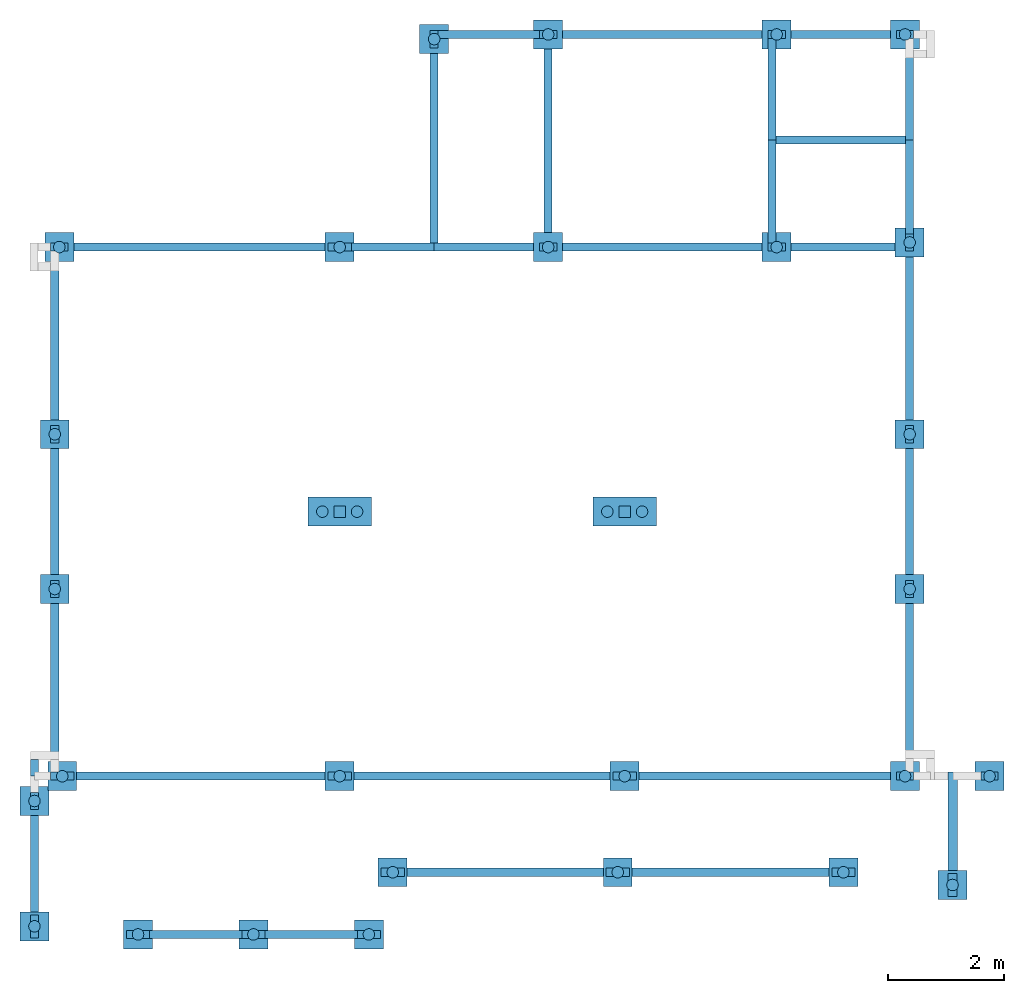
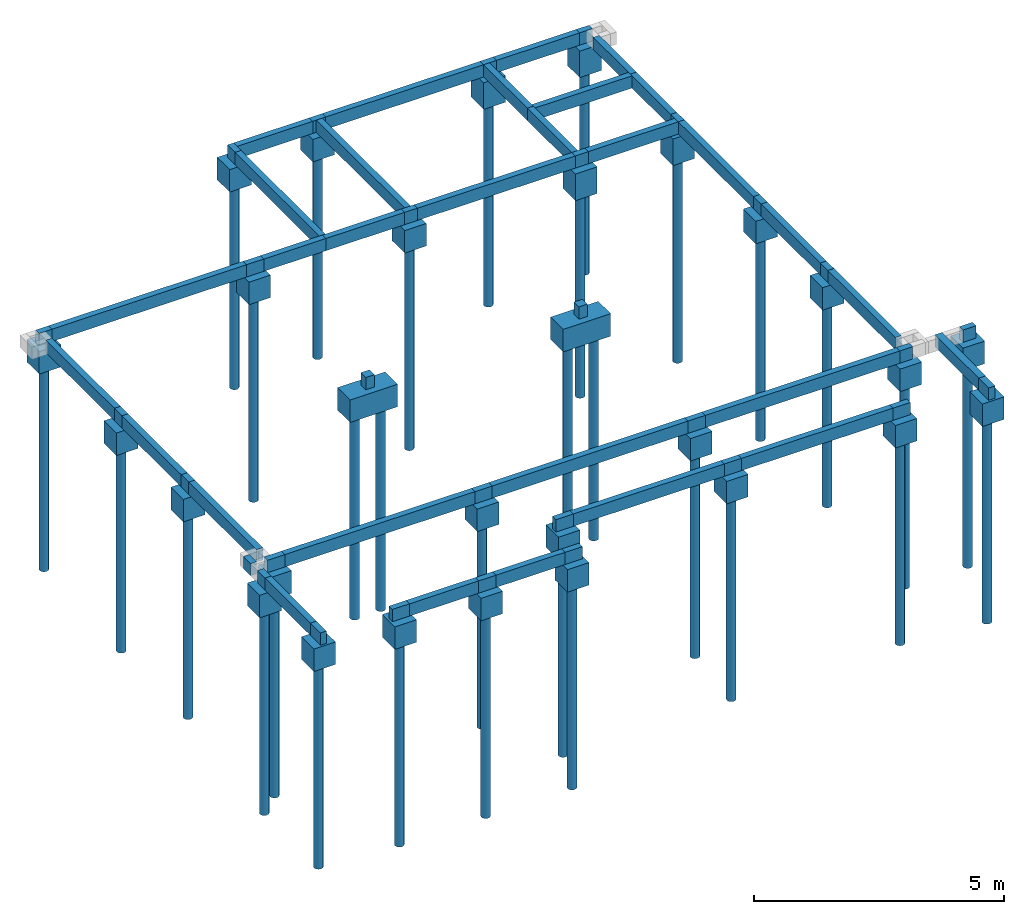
# One storey, part 1 of 2: 31 beams, 31 piles, 29 columns, 29 footings.
"""IFC4 building model written with IfcOpenShell, lengths in centimetres."""

from ifc_helpers import new_model, si_unit, derived_unit, frame, origin_with_axes, origin_2d_with_axis, place, context, project, spatial, rectangle, circle, extrude, faceted_brep, material, element, save


model = new_model("IFC4")

# Units and contexts
model_context = context("Model", 3, precision=1e-05, world=origin_with_axes(), identifier="Body")
ifc_project = project(units=[si_unit("LENGTHUNIT", "METRE", prefix="CENTI"), si_unit("VOLUMEUNIT", "CUBIC_METRE"), si_unit("AREAUNIT", "SQUARE_METRE"), si_unit("POWERUNIT", "WATT"), si_unit("LUMINOUSFLUXUNIT", "LUMEN"), si_unit("ELECTRICCURRENTUNIT", "AMPERE"), si_unit("PRESSUREUNIT", "PASCAL", prefix="KILO"), si_unit("MASSUNIT", "GRAM", prefix="KILO"), si_unit("PLANEANGLEUNIT", "RADIAN"), derived_unit("VOLUMETRICFLOWRATEUNIT", [(si_unit("LENGTHUNIT", "METRE"), 3), (si_unit("TIMEUNIT", "SECOND"), -1)])], contexts=[model_context])

# Site, building, storey
site_placement = place(None, origin_with_axes())
site = spatial("IfcSite", under=ifc_project, at=site_placement)
building_placement = place(site_placement, frame((0.0, 0.0, 24.0)))
building = spatial("IfcBuilding", under=site, at=building_placement)
storey_placement = place(building_placement, origin_with_axes())
storey = spatial("IfcBuildingStorey", under=building, at=storey_placement, Name="BALDRAME-FUNDAÇÃO", CompositionType="ELEMENT", Elevation=24.0)

# Footings
ifc_material = material(Name="Concreto")
for number, where, z_axis, x_axis, name in (
    (1, (682.38, 1555.0, -30.0), (0.0, 0.0, 1.0), (1.0, 0.0, 0.0), "P1"),
    (2, (26.5, 872.02, -30.0), (0.0, 0.0, 1.0), (1.0, 0.0, 0.0), "P10"),
    (3, (1504.19, 872.02, -30.0), (0.0, 0.0, 1.0), (1.0, 0.0, 0.0), "P11"),
):
    element("IfcFooting", number, at=place(storey_placement, frame(where, z_axis=z_axis, x_axis=x_axis)), inside=storey, material=ifc_material, Name=name, context=model_context, shape_type="SolidModel", body=[
        faceted_brep([(25.0, 25.0, -55.0), (25.0, -25.0, -55.0), (-25.0, -25.0, -55.0), (-25.0, 25.0, -55.0), (-25.0, 25.0, 0.0), (-25.0, -25.0, 0.0), (25.0, -25.0, 0.0), (25.0, 25.0, 0.0)], [[[0, 1, 2, 3]], [[4, 5, 6, 7]], [[4, 3, 5]], [[3, 2, 5]], [[5, 2, 6]], [[2, 1, 6]], [[6, 1, 7]], [[1, 0, 7]], [[7, 0, 4]], [[0, 3, 4]]]),
    ])
for number, where, z_axis, x_axis, name in (
    (4, (519.06, 738.26, -30.0), (0.0, 0.0, 1.0), (1.0, 0.0, 0.0), "P12"),
    (5, (1011.63, 738.26, -30.0), (0.0, 0.0, 1.0), (1.0, 0.0, 0.0), "P13"),
):
    element("IfcFooting", number, at=place(storey_placement, frame(where, z_axis=z_axis, x_axis=x_axis)), inside=storey, material=ifc_material, Name=name, context=model_context, shape_type="SolidModel", body=[
        faceted_brep([(55.0, 25.0, -55.0), (55.0, -25.0, -55.0), (-55.0, -25.0, -55.0), (-55.0, 25.0, -55.0), (-55.0, 25.0, 0.0), (-55.0, -25.0, 0.0), (55.0, -25.0, 0.0), (55.0, 25.0, 0.0)], [[[0, 1, 2, 3]], [[4, 5, 6, 7]], [[4, 3, 5]], [[3, 2, 5]], [[5, 2, 6]], [[2, 1, 6]], [[6, 1, 7]], [[1, 0, 7]], [[7, 0, 4]], [[0, 3, 4]]]),
    ])
for number, where, z_axis, x_axis, name in (
    (6, (26.5, 604.5, -30.0), (0.0, 0.0, 1.0), (1.0, 0.0, 0.0), "P14"),
    (7, (1504.19, 604.5, -30.0), (0.0, 0.0, 1.0), (1.0, 0.0, 0.0), "P15"),
):
    element("IfcFooting", number, at=place(storey_placement, frame(where, z_axis=z_axis, x_axis=x_axis)), inside=storey, material=ifc_material, Name=name, context=model_context, shape_type="SolidModel", body=[
        faceted_brep([(25.0, 25.0, -55.0), (25.0, -25.0, -55.0), (-25.0, -25.0, -55.0), (-25.0, 25.0, -55.0), (-25.0, 25.0, 0.0), (-25.0, -25.0, 0.0), (25.0, -25.0, 0.0), (25.0, 25.0, 0.0)], [[[0, 1, 2, 3]], [[4, 5, 6, 7]], [[4, 3, 5]], [[3, 2, 5]], [[5, 2, 6]], [[2, 1, 6]], [[6, 1, 7]], [[1, 0, 7]], [[7, 0, 4]], [[0, 3, 4]]]),
    ])
footing_1_placement = place(storey_placement, frame((-8.5, 238.13, -30.0), z_axis=(0.0, 0.0, 1.0), x_axis=(1.0, 0.0, 0.0)))
element("IfcFooting", 8, at=footing_1_placement, inside=storey, material=ifc_material, Name="P16", context=model_context, shape_type="SolidModel", body=[
    faceted_brep([(-25.0, -25.0, -55.0), (-25.0, 25.0, -55.0), (25.0, 25.0, -55.0), (25.0, -25.0, -55.0), (25.0, -25.0, 0.0), (25.0, 25.0, 0.0), (-25.0, 25.0, 0.0), (-25.0, -25.0, 0.0)], [[[0, 1, 2, 3]], [[4, 5, 6, 7]], [[4, 3, 5]], [[3, 2, 5]], [[5, 2, 6]], [[2, 1, 6]], [[6, 1, 7]], [[1, 0, 7]], [[7, 0, 4]], [[0, 3, 4]]]),
])
for number, where, z_axis, x_axis, name in (
    (9, (39.5, 281.0, -30.0), (0.0, 0.0, 1.0), (1.0, 0.0, 0.0), "P17"),
    (10, (519.06, 281.0, -30.0), (0.0, 0.0, 1.0), (1.0, 0.0, 0.0), "P18"),
    (11, (1011.63, 281.0, -30.0), (0.0, 0.0, 1.0), (1.0, 0.0, 0.0), "P19"),
    (12, (879.38, 1563.0, -30.0), (0.0, 0.0, 1.0), (1.0, 0.0, 0.0), "P2"),
    (13, (1496.18, 281.0, -30.0), (0.0, 0.0, 1.0), (1.0, 0.0, 0.0), "P20"),
    (14, (1642.23, 281.0, -30.0), (0.0, 0.0, 1.0), (1.0, 0.0, 0.0), "P21"),
    (15, (610.69, 115.0, -30.0), (0.0, 0.0, 1.0), (1.0, 0.0, 0.0), "P22"),
    (16, (999.69, 115.0, -30.0), (0.0, 0.0, 1.0), (1.0, 0.0, 0.0), "P23"),
    (17, (1389.69, 115.0, -30.0), (0.0, 0.0, 1.0), (1.0, 0.0, 0.0), "P24"),
):
    element("IfcFooting", number, at=place(storey_placement, frame(where, z_axis=z_axis, x_axis=x_axis)), inside=storey, material=ifc_material, Name=name, context=model_context, shape_type="SolidModel", body=[
        faceted_brep([(25.0, -25.0, -55.0), (-25.0, -25.0, -55.0), (-25.0, 25.0, -55.0), (25.0, 25.0, -55.0), (25.0, 25.0, 0.0), (-25.0, 25.0, 0.0), (-25.0, -25.0, 0.0), (25.0, -25.0, 0.0)], [[[0, 1, 2, 3]], [[4, 5, 6, 7]], [[4, 3, 5]], [[3, 2, 5]], [[5, 2, 6]], [[2, 1, 6]], [[6, 1, 7]], [[1, 0, 7]], [[7, 0, 4]], [[0, 3, 4]]]),
    ])
footing_2_placement = place(storey_placement, frame((1578.23, 93.0, -30.0), z_axis=(0.0, 0.0, 1.0), x_axis=(1.0, 0.0, 0.0)))
element("IfcFooting", 18, at=footing_2_placement, inside=storey, material=ifc_material, Name="P25", context=model_context, shape_type="SolidModel", body=[
    faceted_brep([(25.0, 25.0, -55.0), (25.0, -25.0, -55.0), (-25.0, -25.0, -55.0), (-25.0, 25.0, -55.0), (-25.0, 25.0, 0.0), (-25.0, -25.0, 0.0), (25.0, -25.0, 0.0), (25.0, 25.0, 0.0)], [[[0, 1, 2, 3]], [[4, 5, 6, 7]], [[4, 3, 5]], [[3, 2, 5]], [[5, 2, 6]], [[2, 1, 6]], [[6, 1, 7]], [[1, 0, 7]], [[7, 0, 4]], [[0, 3, 4]]]),
])
footing_3_placement = place(storey_placement, frame((-8.5, 21.5, -30.0), z_axis=(0.0, 0.0, 1.0), x_axis=(1.0, 0.0, 0.0)))
element("IfcFooting", 19, at=footing_3_placement, inside=storey, material=ifc_material, Name="P26", context=model_context, shape_type="SolidModel", body=[
    faceted_brep([(-25.0, -25.0, -55.0), (-25.0, 25.0, -55.0), (25.0, 25.0, -55.0), (25.0, -25.0, -55.0), (25.0, -25.0, 0.0), (25.0, 25.0, 0.0), (-25.0, 25.0, 0.0), (-25.0, -25.0, 0.0)], [[[0, 1, 2, 3]], [[4, 5, 6, 7]], [[4, 3, 5]], [[3, 2, 5]], [[5, 2, 6]], [[2, 1, 6]], [[6, 1, 7]], [[1, 0, 7]], [[7, 0, 4]], [[0, 3, 4]]]),
])
for number, where, z_axis, x_axis, name in (
    (20, (170.5, 7.5, -30.0), (0.0, 0.0, 1.0), (1.0, 0.0, 0.0), "P27"),
    (21, (370.0, 7.5, -30.0), (0.0, 0.0, 1.0), (1.0, 0.0, 0.0), "P28"),
    (22, (569.5, 7.5, -30.0), (0.0, 0.0, 1.0), (1.0, 0.0, 0.0), "P29"),
):
    element("IfcFooting", number, at=place(storey_placement, frame(where, z_axis=z_axis, x_axis=x_axis)), inside=storey, material=ifc_material, Name=name, context=model_context, shape_type="SolidModel", body=[
        faceted_brep([(25.0, -25.0, -55.0), (-25.0, -25.0, -55.0), (-25.0, 25.0, -55.0), (25.0, 25.0, -55.0), (25.0, 25.0, 0.0), (-25.0, 25.0, 0.0), (-25.0, -25.0, 0.0), (25.0, -25.0, 0.0)], [[[0, 1, 2, 3]], [[4, 5, 6, 7]], [[4, 3, 5]], [[3, 2, 5]], [[5, 2, 6]], [[2, 1, 6]], [[6, 1, 7]], [[1, 0, 7]], [[7, 0, 4]], [[0, 3, 4]]]),
    ])
for number, where, z_axis, x_axis, name in (
    (23, (1274.22, 1563.0, -30.0), (0.0, 0.0, 1.0), (1.0, 0.0, 0.0), "P3"),
    (24, (1496.18, 1563.0, -30.0), (0.0, 0.0, 1.0), (1.0, 0.0, 0.0), "P4"),
):
    element("IfcFooting", number, at=place(storey_placement, frame(where, z_axis=z_axis, x_axis=x_axis)), inside=storey, material=ifc_material, Name=name, context=model_context, shape_type="SolidModel", body=[
        faceted_brep([(25.0, -25.0, -65.0), (-25.0, -25.0, -65.0), (-25.0, 25.0, -65.0), (25.0, 25.0, -65.0), (25.0, 25.0, 0.0), (-25.0, 25.0, 0.0), (-25.0, -25.0, 0.0), (25.0, -25.0, 0.0)], [[[0, 1, 2, 3]], [[4, 5, 6, 7]], [[4, 3, 5]], [[3, 2, 5]], [[5, 2, 6]], [[2, 1, 6]], [[6, 1, 7]], [[1, 0, 7]], [[7, 0, 4]], [[0, 3, 4]]]),
    ])
for number, where, z_axis, x_axis, name in (
    (25, (34.5, 1195.52, -30.0), (0.0, 0.0, 1.0), (1.0, 0.0, 0.0), "P5"),
    (26, (519.06, 1195.52, -30.0), (0.0, 0.0, 1.0), (1.0, 0.0, 0.0), "P6"),
    (27, (879.38, 1195.52, -30.0), (0.0, 0.0, 1.0), (1.0, 0.0, 0.0), "P7"),
):
    element("IfcFooting", number, at=place(storey_placement, frame(where, z_axis=z_axis, x_axis=x_axis)), inside=storey, material=ifc_material, Name=name, context=model_context, shape_type="SolidModel", body=[
        faceted_brep([(25.0, -25.0, -55.0), (-25.0, -25.0, -55.0), (-25.0, 25.0, -55.0), (25.0, 25.0, -55.0), (25.0, 25.0, 0.0), (-25.0, 25.0, 0.0), (-25.0, -25.0, 0.0), (25.0, -25.0, 0.0)], [[[0, 1, 2, 3]], [[4, 5, 6, 7]], [[4, 3, 5]], [[3, 2, 5]], [[5, 2, 6]], [[2, 1, 6]], [[6, 1, 7]], [[1, 0, 7]], [[7, 0, 4]], [[0, 3, 4]]]),
    ])
footing_4_placement = place(storey_placement, frame((1274.22, 1195.52, -30.0), z_axis=(0.0, 0.0, 1.0), x_axis=(1.0, 0.0, 0.0)))
element("IfcFooting", 28, at=footing_4_placement, inside=storey, material=ifc_material, Name="P8", context=model_context, shape_type="SolidModel", body=[
    faceted_brep([(25.0, -25.0, -65.0), (-25.0, -25.0, -65.0), (-25.0, 25.0, -65.0), (25.0, 25.0, -65.0), (25.0, 25.0, 0.0), (-25.0, 25.0, 0.0), (-25.0, -25.0, 0.0), (25.0, -25.0, 0.0)], [[[0, 1, 2, 3]], [[4, 5, 6, 7]], [[4, 3, 5]], [[3, 2, 5]], [[5, 2, 6]], [[2, 1, 6]], [[6, 1, 7]], [[1, 0, 7]], [[7, 0, 4]], [[0, 3, 4]]]),
])
footing_5_placement = place(storey_placement, frame((1504.18, 1203.52, -30.0), z_axis=(0.0, 0.0, 1.0), x_axis=(1.0, 0.0, 0.0)))
element("IfcFooting", 29, at=footing_5_placement, inside=storey, material=ifc_material, Name="P9", context=model_context, shape_type="SolidModel", body=[
    faceted_brep([(25.0, 25.0, -65.0), (25.0, -25.0, -65.0), (-25.0, -25.0, -65.0), (-25.0, 25.0, -65.0), (-25.0, 25.0, 0.0), (-25.0, -25.0, 0.0), (25.0, -25.0, 0.0), (25.0, 25.0, 0.0)], [[[0, 1, 2, 3]], [[4, 5, 6, 7]], [[4, 3, 5]], [[3, 2, 5]], [[5, 2, 6]], [[2, 1, 6]], [[6, 1, 7]], [[1, 0, 7]], [[7, 0, 4]], [[0, 3, 4]]]),
])

# Piles
for number, where, z_axis, x_axis, name in (
    (30, (682.38, 1555.0, -70.0), (0.0, 0.0, 1.0), (1.0, 0.0, 0.0), "E1-1"),
    (31, (26.5, 872.02, -70.0), (0.0, 0.0, 1.0), (1.0, 0.0, 0.0), "E10-1"),
    (32, (1504.19, 872.02, -70.0), (0.0, 0.0, 1.0), (1.0, 0.0, 0.0), "E11-1"),
    (33, (489.06, 738.26, -70.0), (0.0, 0.0, 1.0), (1.0, 0.0, 0.0), "E12-1"),
    (34, (549.06, 738.26, -70.0), (0.0, 0.0, 1.0), (1.0, 0.0, 0.0), "E12-2"),
    (35, (981.63, 738.26, -70.0), (0.0, 0.0, 1.0), (1.0, 0.0, 0.0), "E13-1"),
    (36, (1041.63, 738.26, -70.0), (0.0, 0.0, 1.0), (1.0, 0.0, 0.0), "E13-2"),
    (37, (26.5, 604.5, -70.0), (0.0, 0.0, 1.0), (1.0, 0.0, 0.0), "E14-1"),
    (38, (1504.19, 604.5, -70.0), (0.0, 0.0, 1.0), (1.0, 0.0, 0.0), "E15-1"),
    (39, (-8.5, 238.13, -70.0), (0.0, 0.0, 1.0), (1.0, 0.0, 0.0), "E16-1"),
    (40, (39.5, 281.0, -70.0), (0.0, 0.0, 1.0), (1.0, 0.0, 0.0), "E17-1"),
    (41, (519.06, 281.0, -70.0), (0.0, 0.0, 1.0), (1.0, 0.0, 0.0), "E18-1"),
    (42, (1011.63, 281.0, -70.0), (0.0, 0.0, 1.0), (1.0, 0.0, 0.0), "E19-1"),
    (43, (879.38, 1563.0, -70.0), (0.0, 0.0, 1.0), (1.0, 0.0, 0.0), "E2-1"),
    (44, (1496.18, 281.0, -70.0), (0.0, 0.0, 1.0), (1.0, 0.0, 0.0), "E20-1"),
    (45, (1642.23, 281.0, -70.0), (0.0, 0.0, 1.0), (1.0, 0.0, 0.0), "E21-1"),
    (46, (610.69, 115.0, -70.0), (0.0, 0.0, 1.0), (1.0, 0.0, 0.0), "E22-1"),
    (47, (999.69, 115.0, -70.0), (0.0, 0.0, 1.0), (1.0, 0.0, 0.0), "E23-1"),
    (48, (1389.69, 115.0, -70.0), (0.0, 0.0, 1.0), (1.0, 0.0, 0.0), "E24-1"),
    (49, (1578.23, 93.0, -70.0), (0.0, 0.0, 1.0), (1.0, 0.0, 0.0), "E25-1"),
    (50, (-8.5, 21.5, -70.0), (0.0, 0.0, 1.0), (1.0, 0.0, 0.0), "E26-1"),
    (51, (170.5, 7.5, -70.0), (0.0, 0.0, 1.0), (1.0, 0.0, 0.0), "E27-1"),
    (52, (370.0, 7.5, -70.0), (0.0, 0.0, 1.0), (1.0, 0.0, 0.0), "E28-1"),
    (53, (569.5, 7.5, -70.0), (0.0, 0.0, 1.0), (1.0, 0.0, 0.0), "E29-1"),
    (54, (1274.22, 1563.0, -80.0), (0.0, 0.0, 1.0), (1.0, 0.0, 0.0), "E3-1"),
    (55, (1496.18, 1563.0, -80.0), (0.0, 0.0, 1.0), (1.0, 0.0, 0.0), "E4-1"),
    (56, (34.5, 1195.52, -70.0), (0.0, 0.0, 1.0), (1.0, 0.0, 0.0), "E5-1"),
    (57, (519.06, 1195.52, -70.0), (0.0, 0.0, 1.0), (1.0, 0.0, 0.0), "E6-1"),
    (58, (879.38, 1195.52, -70.0), (0.0, 0.0, 1.0), (1.0, 0.0, 0.0), "E7-1"),
    (59, (1274.22, 1195.52, -80.0), (0.0, 0.0, 1.0), (1.0, 0.0, 0.0), "E8-1"),
    (60, (1504.18, 1203.52, -80.0), (0.0, 0.0, 1.0), (1.0, 0.0, 0.0), "E9-1"),
):
    element("IfcPile", number, at=place(storey_placement, frame(where, z_axis=z_axis, x_axis=x_axis)), inside=storey, material=ifc_material, Name=name, context=model_context, shape_type="SweptSolid", body=[
        extrude(circle(Radius=10.0, at=origin_2d_with_axis()), frame((0.0, 0.0, -515.0), z_axis=(0.0, 0.0, 1.0), x_axis=(1.0, 0.0, 0.0)), (0.0, 0.0, 1.0), 515.0),
    ])

# Columns
for number, where, z_axis, x_axis, name in (
    (61, (682.38, 1555.0, 0.0), (0.0, 0.0, 1.0), (1.0, 0.0, 0.0), "P1"),
    (62, (26.5, 872.02, 0.0), (0.0, 0.0, 1.0), (1.0, 0.0, 0.0), "P10"),
    (63, (1504.19, 872.02, 0.0), (0.0, 0.0, 1.0), (1.0, 0.0, 0.0), "P11"),
):
    element("IfcColumn", number, at=place(storey_placement, frame(where, z_axis=z_axis, x_axis=x_axis)), inside=storey, material=ifc_material, Name=name, context=model_context, shape_type="SolidModel", body=[
        extrude(rectangle(XDim=14.0, YDim=30.0, at=origin_2d_with_axis()), frame((0.0, 0.0, -30.0), z_axis=(0.0, 0.0, 1.0), x_axis=(1.0, 0.0, 0.0)), (0.0, 0.0, 1.0), 30.0),
    ])
for number, where, z_axis, x_axis, name in (
    (64, (519.06, 738.26, 0.0), (0.0, 0.0, 1.0), (1.0, 0.0, 0.0), "P12"),
    (65, (1011.63, 738.26, 0.0), (0.0, 0.0, 1.0), (1.0, 0.0, 0.0), "P13"),
):
    element("IfcColumn", number, at=place(storey_placement, frame(where, z_axis=z_axis, x_axis=x_axis)), inside=storey, material=ifc_material, Name=name, context=model_context, shape_type="SolidModel", body=[
        extrude(rectangle(XDim=20.0, YDim=20.0, at=origin_2d_with_axis()), frame((0.0, 0.0, -30.0), z_axis=(0.0, 0.0, 1.0), x_axis=(1.0, 0.0, 0.0)), (0.0, 0.0, 1.0), 30.0),
    ])
for number, where, z_axis, x_axis, name in (
    (66, (26.5, 604.5, 0.0), (0.0, 0.0, 1.0), (1.0, 0.0, 0.0), "P14"),
    (67, (1504.19, 604.5, 0.0), (0.0, 0.0, 1.0), (1.0, 0.0, 0.0), "P15"),
):
    element("IfcColumn", number, at=place(storey_placement, frame(where, z_axis=z_axis, x_axis=x_axis)), inside=storey, material=ifc_material, Name=name, context=model_context, shape_type="SolidModel", body=[
        extrude(rectangle(XDim=14.0, YDim=30.0, at=origin_2d_with_axis()), frame((0.0, 0.0, -30.0), z_axis=(0.0, 0.0, 1.0), x_axis=(1.0, 0.0, 0.0)), (0.0, 0.0, 1.0), 30.0),
    ])
column_1_placement = place(storey_placement, frame((-8.5, 238.13, 0.0), z_axis=(0.0, 0.0, 1.0), x_axis=(1.0, 0.0, 0.0)))
element("IfcColumn", 68, at=column_1_placement, inside=storey, material=ifc_material, Name="P16", context=model_context, shape_type="SolidModel", body=[
    extrude(rectangle(XDim=14.0, YDim=30.0, at=origin_2d_with_axis()), frame((0.0, 0.0, -30.0), z_axis=(0.0, 0.0, 1.0), x_axis=(-1.0, 0.0, 0.0)), (0.0, 0.0, 1.0), 30.0),
])
for number, where, z_axis, x_axis, name in (
    (69, (39.5, 281.0, 0.0), (0.0, 0.0, 1.0), (1.0, 0.0, 0.0), "P17"),
    (70, (519.06, 281.0, 0.0), (0.0, 0.0, 1.0), (1.0, 0.0, 0.0), "P18"),
    (71, (1011.63, 281.0, 0.0), (0.0, 0.0, 1.0), (1.0, 0.0, 0.0), "P19"),
):
    element("IfcColumn", number, at=place(storey_placement, frame(where, z_axis=z_axis, x_axis=x_axis)), inside=storey, material=ifc_material, Name=name, context=model_context, shape_type="SolidModel", body=[
        extrude(rectangle(XDim=14.0, YDim=40.0, at=origin_2d_with_axis()), frame((0.0, 0.0, -30.0), z_axis=(0.0, 0.0, 1.0), x_axis=(0.0, -1.0, 0.0)), (0.0, 0.0, 1.0), 30.0),
    ])
for number, where, z_axis, x_axis, name in (
    (72, (879.38, 1563.0, 0.0), (0.0, 0.0, 1.0), (1.0, 0.0, 0.0), "P2"),
    (73, (1496.18, 281.0, 0.0), (0.0, 0.0, 1.0), (1.0, 0.0, 0.0), "P20"),
    (74, (1642.23, 281.0, 0.0), (0.0, 0.0, 1.0), (1.0, 0.0, 0.0), "P21"),
):
    element("IfcColumn", number, at=place(storey_placement, frame(where, z_axis=z_axis, x_axis=x_axis)), inside=storey, material=ifc_material, Name=name, context=model_context, shape_type="SolidModel", body=[
        extrude(rectangle(XDim=14.0, YDim=30.0, at=origin_2d_with_axis()), frame((0.0, 0.0, -30.0), z_axis=(0.0, 0.0, 1.0), x_axis=(0.0, -1.0, 0.0)), (0.0, 0.0, 1.0), 30.0),
    ])
for number, where, z_axis, x_axis, name in (
    (75, (610.69, 115.0, 0.0), (0.0, 0.0, 1.0), (1.0, 0.0, 0.0), "P22"),
    (76, (999.69, 115.0, 0.0), (0.0, 0.0, 1.0), (1.0, 0.0, 0.0), "P23"),
    (77, (1389.69, 115.0, 0.0), (0.0, 0.0, 1.0), (1.0, 0.0, 0.0), "P24"),
):
    element("IfcColumn", number, at=place(storey_placement, frame(where, z_axis=z_axis, x_axis=x_axis)), inside=storey, material=ifc_material, Name=name, context=model_context, shape_type="SolidModel", body=[
        extrude(rectangle(XDim=14.0, YDim=40.0, at=origin_2d_with_axis()), frame((0.0, 0.0, -30.0), z_axis=(0.0, 0.0, 1.0), x_axis=(0.0, -1.0, 0.0)), (0.0, 0.0, 1.0), 30.0),
    ])
column_2_placement = place(storey_placement, frame((1578.23, 93.0, 0.0), z_axis=(0.0, 0.0, 1.0), x_axis=(1.0, 0.0, 0.0)))
element("IfcColumn", 78, at=column_2_placement, inside=storey, material=ifc_material, Name="P25", context=model_context, shape_type="SolidModel", body=[
    extrude(rectangle(XDim=15.0, YDim=40.0, at=origin_2d_with_axis()), frame((0.0, 0.0, -30.0), z_axis=(0.0, 0.0, 1.0), x_axis=(1.0, 0.0, 0.0)), (0.0, 0.0, 1.0), 30.0),
])
column_3_placement = place(storey_placement, frame((-8.5, 21.5, 0.0), z_axis=(0.0, 0.0, 1.0), x_axis=(1.0, 0.0, 0.0)))
element("IfcColumn", 79, at=column_3_placement, inside=storey, material=ifc_material, Name="P26", context=model_context, shape_type="SolidModel", body=[
    extrude(rectangle(XDim=14.0, YDim=40.0, at=origin_2d_with_axis()), frame((0.0, 0.0, -30.0), z_axis=(0.0, 0.0, 1.0), x_axis=(-1.0, 0.0, 0.0)), (0.0, 0.0, 1.0), 30.0),
])
for number, where, z_axis, x_axis, name in (
    (80, (170.5, 7.5, 0.0), (0.0, 0.0, 1.0), (1.0, 0.0, 0.0), "P27"),
    (81, (370.0, 7.5, 0.0), (0.0, 0.0, 1.0), (1.0, 0.0, 0.0), "P28"),
    (82, (569.5, 7.5, 0.0), (0.0, 0.0, 1.0), (1.0, 0.0, 0.0), "P29"),
):
    element("IfcColumn", number, at=place(storey_placement, frame(where, z_axis=z_axis, x_axis=x_axis)), inside=storey, material=ifc_material, Name=name, context=model_context, shape_type="SolidModel", body=[
        extrude(rectangle(XDim=14.0, YDim=40.0, at=origin_2d_with_axis()), frame((0.0, 0.0, -30.0), z_axis=(0.0, 0.0, 1.0), x_axis=(0.0, -1.0, 0.0)), (0.0, 0.0, 1.0), 30.0),
    ])
for number, where, z_axis, x_axis, name in (
    (83, (1274.22, 1563.0, 0.0), (0.0, 0.0, 1.0), (1.0, 0.0, 0.0), "P3"),
    (84, (1496.18, 1563.0, 0.0), (0.0, 0.0, 1.0), (1.0, 0.0, 0.0), "P4"),
    (85, (34.5, 1195.52, 0.0), (0.0, 0.0, 1.0), (1.0, 0.0, 0.0), "P5"),
):
    element("IfcColumn", number, at=place(storey_placement, frame(where, z_axis=z_axis, x_axis=x_axis)), inside=storey, material=ifc_material, Name=name, context=model_context, shape_type="SolidModel", body=[
        extrude(rectangle(XDim=14.0, YDim=30.0, at=origin_2d_with_axis()), frame((0.0, 0.0, -30.0), z_axis=(0.0, 0.0, 1.0), x_axis=(0.0, -1.0, 0.0)), (0.0, 0.0, 1.0), 30.0),
    ])
column_4_placement = place(storey_placement, frame((519.06, 1195.52, 0.0), z_axis=(0.0, 0.0, 1.0), x_axis=(1.0, 0.0, 0.0)))
element("IfcColumn", 86, at=column_4_placement, inside=storey, material=ifc_material, Name="P6", context=model_context, shape_type="SolidModel", body=[
    extrude(rectangle(XDim=14.0, YDim=40.0, at=origin_2d_with_axis()), frame((0.0, 0.0, -30.0), z_axis=(0.0, 0.0, 1.0), x_axis=(0.0, -1.0, 0.0)), (0.0, 0.0, 1.0), 30.0),
])
for number, where, z_axis, x_axis, name in (
    (87, (879.38, 1195.52, 0.0), (0.0, 0.0, 1.0), (1.0, 0.0, 0.0), "P7"),
    (88, (1274.22, 1195.52, 0.0), (0.0, 0.0, 1.0), (1.0, 0.0, 0.0), "P8"),
):
    element("IfcColumn", number, at=place(storey_placement, frame(where, z_axis=z_axis, x_axis=x_axis)), inside=storey, material=ifc_material, Name=name, context=model_context, shape_type="SolidModel", body=[
        extrude(rectangle(XDim=14.0, YDim=30.0, at=origin_2d_with_axis()), frame((0.0, 0.0, -30.0), z_axis=(0.0, 0.0, 1.0), x_axis=(0.0, -1.0, 0.0)), (0.0, 0.0, 1.0), 30.0),
    ])
column_5_placement = place(storey_placement, frame((1504.18, 1203.52, 0.0), z_axis=(0.0, 0.0, 1.0), x_axis=(1.0, 0.0, 0.0)))
element("IfcColumn", 89, at=column_5_placement, inside=storey, material=ifc_material, Name="P9", context=model_context, shape_type="SolidModel", body=[
    extrude(rectangle(XDim=14.0, YDim=30.0, at=origin_2d_with_axis()), frame((0.0, 0.0, -30.0), z_axis=(0.0, 0.0, 1.0), x_axis=(1.0, 0.0, 0.0)), (0.0, 0.0, 1.0), 30.0),
])

# Beams
beam_1_placement = place(storey_placement, frame((1385.2, 1563.0, 0.0), z_axis=(0.0, 0.0, 1.0), x_axis=(1.0, 0.0, 0.0)))
element("IfcBeam", 90, at=beam_1_placement, inside=storey, material=ifc_material, Name="V1", context=model_context, shape_type="SolidModel", body=[
    extrude(rectangle(XDim=14.0, YDim=30.0, at=origin_2d_with_axis()), frame((-95.98, 0.0, -15.0), z_axis=(1.0, 0.0, 0.0), x_axis=(0.0, 1.0, 0.0)), (0.0, 0.0, 1.0), 191.96),
])
beam_2_placement = place(storey_placement, frame((1076.8, 1563.0, 0.0), z_axis=(0.0, 0.0, 1.0), x_axis=(1.0, 0.0, 0.0)))
element("IfcBeam", 91, at=beam_2_placement, inside=storey, material=ifc_material, Name="V1", context=model_context, shape_type="SolidModel", body=[
    extrude(rectangle(XDim=14.0, YDim=30.0, at=origin_2d_with_axis()), frame((-182.42, 0.0, -15.0), z_axis=(1.0, 0.0, 0.0), x_axis=(0.0, 1.0, 0.0)), (0.0, 0.0, 1.0), 364.84),
])
beam_3_placement = place(storey_placement, frame((776.88, 1563.0, 0.0), z_axis=(0.0, 0.0, 1.0), x_axis=(1.0, 0.0, 0.0)))
element("IfcBeam", 92, at=beam_3_placement, inside=storey, material=ifc_material, Name="V1", context=model_context, shape_type="SolidModel", body=[
    extrude(rectangle(XDim=14.0, YDim=30.0, at=origin_2d_with_axis()), frame((-87.5, 0.0, -15.0), z_axis=(1.0, 0.0, 0.0), x_axis=(0.0, 1.0, 0.0)), (0.0, 0.0, 1.0), 175.0),
])
beam_4_placement = place(storey_placement, frame((1266.22, 1468.38, 0.0), z_axis=(0.0, 0.0, 1.0), x_axis=(1.0, 0.0, 0.0)))
element("IfcBeam", 93, at=beam_4_placement, inside=storey, material=ifc_material, Name="V10", context=model_context, shape_type="SolidModel", body=[
    extrude(rectangle(XDim=14.0, YDim=30.0, at=origin_2d_with_axis()), frame((0.0, -87.62, -15.0), z_axis=(0.0, 1.0, 0.0), x_axis=(1.0, 0.0, 0.0)), (0.0, 0.0, 1.0), 175.24),
])
beam_5_placement = place(storey_placement, frame((1266.22, 1291.64, 0.0), z_axis=(0.0, 0.0, 1.0), x_axis=(1.0, 0.0, 0.0)))
element("IfcBeam", 94, at=beam_5_placement, inside=storey, material=ifc_material, Name="V10", context=model_context, shape_type="SolidModel", body=[
    extrude(rectangle(XDim=14.0, YDim=30.0, at=origin_2d_with_axis()), frame((0.0, -89.12, -15.0), z_axis=(0.0, 1.0, 0.0), x_axis=(1.0, 0.0, 0.0)), (0.0, 0.0, 1.0), 178.24),
])
beam_6_placement = place(storey_placement, frame((1504.18, 1299.64, 0.0), z_axis=(0.0, 0.0, 1.0), x_axis=(1.0, 0.0, 0.0)))
element("IfcBeam", 95, at=beam_6_placement, inside=storey, material=ifc_material, Name="V11", context=model_context, shape_type="SolidModel", body=[
    extrude(rectangle(XDim=14.0, YDim=30.0, at=origin_2d_with_axis()), frame((0.0, -81.12, -15.0), z_axis=(0.0, 1.0, 0.0), x_axis=(1.0, 0.0, 0.0)), (0.0, 0.0, 1.0), 162.24),
])
beam_7_placement = place(storey_placement, frame((1504.18, 454.25, 0.0), z_axis=(0.0, 0.0, 1.0), x_axis=(1.0, 0.0, 0.0)))
element("IfcBeam", 96, at=beam_7_placement, inside=storey, material=ifc_material, Name="V11", context=model_context, shape_type="SolidModel", body=[
    extrude(rectangle(XDim=14.0, YDim=30.0, at=origin_2d_with_axis()), frame((0.0, -135.25, -15.0), z_axis=(0.0, 1.0, 0.0), x_axis=(1.0, 0.0, 0.0)), (0.0, 0.0, 1.0), 270.5),
])
beam_8_placement = place(storey_placement, frame((1504.18, 1037.77, 0.0), z_axis=(0.0, 0.0, 1.0), x_axis=(1.0, 0.0, 0.0)))
element("IfcBeam", 97, at=beam_8_placement, inside=storey, material=ifc_material, Name="V11", context=model_context, shape_type="SolidModel", body=[
    extrude(rectangle(XDim=14.0, YDim=30.0, at=origin_2d_with_axis()), frame((0.0, -150.75, -15.0), z_axis=(0.0, 1.0, 0.0), x_axis=(1.0, 0.0, 0.0)), (0.0, 0.0, 1.0), 301.5),
])
beam_9_placement = place(storey_placement, frame((1504.18, 738.26, 0.0), z_axis=(0.0, 0.0, 1.0), x_axis=(1.0, 0.0, 0.0)))
element("IfcBeam", 98, at=beam_9_placement, inside=storey, material=ifc_material, Name="V11", context=model_context, shape_type="SolidModel", body=[
    extrude(rectangle(XDim=14.0, YDim=30.0, at=origin_2d_with_axis()), frame((0.0, -118.76, -15.0), z_axis=(0.0, 1.0, 0.0), x_axis=(1.0, 0.0, 0.0)), (0.0, 0.0, 1.0), 237.52),
])
beam_10_placement = place(storey_placement, frame((1504.18, 1454.88, 0.0), z_axis=(0.0, 0.0, 1.0), x_axis=(1.0, 0.0, 0.0)))
element("IfcBeam", 99, at=beam_10_placement, inside=storey, material=ifc_material, Name="V11", context=model_context, shape_type="SolidModel", body=[
    extrude(rectangle(XDim=14.0, YDim=30.0, at=origin_2d_with_axis()), frame((0.0, -74.12, -15.0), z_axis=(0.0, 1.0, 0.0), x_axis=(1.0, 0.0, 0.0)), (0.0, 0.0, 1.0), 148.24),
])
beam_11_placement = place(storey_placement, frame((1578.73, 200.5, 0.0), z_axis=(0.0, 0.0, 1.0), x_axis=(1.0, 0.0, 0.0)))
element("IfcBeam", 100, at=beam_11_placement, inside=storey, material=ifc_material, Name="V12", context=model_context, shape_type="SolidModel", body=[
    extrude(rectangle(XDim=16.0, YDim=30.0, at=origin_2d_with_axis()), frame((0.0, -87.5, -15.0), z_axis=(0.0, 1.0, 0.0), x_axis=(1.0, 0.0, 0.0)), (0.0, 0.0, 1.0), 175.0),
])
beam_12_placement = place(storey_placement, frame((-8.5, 295.5059998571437, 0.0), z_axis=(0.0, 0.0, 1.0), x_axis=(1.0, 0.0, 0.0)))
element("IfcBeam", 101, at=beam_12_placement, inside=storey, material=ifc_material, Name="V16", context=model_context, shape_type="SolidModel", body=[
    extrude(rectangle(XDim=14.0, YDim=30.0, at=origin_2d_with_axis()), frame((0.0, -14.505999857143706, -15.0), z_axis=(0.0, 1.0, 0.0), x_axis=(-1.0, 0.0, 0.0)), (0.0, 0.0, 1.0), 29.011999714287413),
])
beam_13_placement = place(storey_placement, frame((-8.5, 132.315, 0.0), z_axis=(0.0, 0.0, 1.0), x_axis=(1.0, 0.0, 0.0)))
element("IfcBeam", 102, at=beam_13_placement, inside=storey, material=ifc_material, Name="V16", context=model_context, shape_type="SolidModel", body=[
    extrude(rectangle(XDim=14.0, YDim=30.0, at=origin_2d_with_axis()), frame((0.0, -90.815, -15.0), z_axis=(0.0, 1.0, 0.0), x_axis=(-1.0, 0.0, 0.0)), (0.0, 0.0, 1.0), 181.63),
])
beam_14_placement = place(storey_placement, frame((1385.2, 1380.76, 0.0), z_axis=(0.0, 0.0, 1.0), x_axis=(1.0, 0.0, 0.0)))
element("IfcBeam", 103, at=beam_14_placement, inside=storey, material=ifc_material, Name="V2", context=model_context, shape_type="SolidModel", body=[
    extrude(rectangle(XDim=14.0, YDim=30.0, at=origin_2d_with_axis()), frame((-118.98, 0.0, -15.0), z_axis=(1.0, 0.0, 0.0), x_axis=(0.0, 1.0, 0.0)), (0.0, 0.0, 1.0), 237.96),
])
beam_15_placement = place(storey_placement, frame((1393.2, 1195.52, 0.0), z_axis=(0.0, 0.0, 1.0), x_axis=(1.0, 0.0, 0.0)))
element("IfcBeam", 104, at=beam_15_placement, inside=storey, material=ifc_material, Name="V3", context=model_context, shape_type="SolidModel", body=[
    extrude(rectangle(XDim=14.0, YDim=30.0, at=origin_2d_with_axis()), frame((-103.98, 0.0, -15.0), z_axis=(1.0, 0.0, 0.0), x_axis=(0.0, 1.0, 0.0)), (0.0, 0.0, 1.0), 207.96),
])
beam_16_placement = place(storey_placement, frame((1076.8, 1195.52, 0.0), z_axis=(0.0, 0.0, 1.0), x_axis=(1.0, 0.0, 0.0)))
element("IfcBeam", 105, at=beam_16_placement, inside=storey, material=ifc_material, Name="V3", context=model_context, shape_type="SolidModel", body=[
    extrude(rectangle(XDim=14.0, YDim=30.0, at=origin_2d_with_axis()), frame((-182.42, 0.0, -15.0), z_axis=(1.0, 0.0, 0.0), x_axis=(0.0, 1.0, 0.0)), (0.0, 0.0, 1.0), 364.84),
])
beam_17_placement = place(storey_placement, frame((773.38, 1195.52, 0.0), z_axis=(0.0, 0.0, 1.0), x_axis=(1.0, 0.0, 0.0)))
element("IfcBeam", 106, at=beam_17_placement, inside=storey, material=ifc_material, Name="V3", context=model_context, shape_type="SolidModel", body=[
    extrude(rectangle(XDim=14.0, YDim=30.0, at=origin_2d_with_axis()), frame((-91.0, 0.0, -15.0), z_axis=(1.0, 0.0, 0.0), x_axis=(0.0, 1.0, 0.0)), (0.0, 0.0, 1.0), 182.0),
])
beam_18_placement = place(storey_placement, frame((610.72, 1195.52, 0.0), z_axis=(0.0, 0.0, 1.0), x_axis=(1.0, 0.0, 0.0)))
element("IfcBeam", 107, at=beam_18_placement, inside=storey, material=ifc_material, Name="V3", context=model_context, shape_type="SolidModel", body=[
    extrude(rectangle(XDim=14.0, YDim=30.0, at=origin_2d_with_axis()), frame((-71.66, 0.0, -15.0), z_axis=(1.0, 0.0, 0.0), x_axis=(0.0, 1.0, 0.0)), (0.0, 0.0, 1.0), 143.32),
])
beam_19_placement = place(storey_placement, frame((274.28, 1195.52, 0.0), z_axis=(0.0, 0.0, 1.0), x_axis=(1.0, 0.0, 0.0)))
element("IfcBeam", 108, at=beam_19_placement, inside=storey, material=ifc_material, Name="V3", context=model_context, shape_type="SolidModel", body=[
    extrude(rectangle(XDim=14.0, YDim=30.0, at=origin_2d_with_axis()), frame((-224.78, 0.0, -15.0), z_axis=(1.0, 0.0, 0.0), x_axis=(0.0, 1.0, 0.0)), (0.0, 0.0, 1.0), 449.56),
])
beam_20_placement = place(storey_placement, frame((279.28, 281.0, 0.0), z_axis=(0.0, 0.0, 1.0), x_axis=(1.0, 0.0, 0.0)))
element("IfcBeam", 109, at=beam_20_placement, inside=storey, material=ifc_material, Name="V4", context=model_context, shape_type="SolidModel", body=[
    extrude(rectangle(XDim=14.0, YDim=30.0, at=origin_2d_with_axis()), frame((-219.78, 0.0, -15.0), z_axis=(1.0, 0.0, 0.0), x_axis=(0.0, 1.0, 0.0)), (0.0, 0.0, 1.0), 439.56),
])
beam_21_placement = place(storey_placement, frame((765.345, 281.0, 0.0), z_axis=(0.0, 0.0, 1.0), x_axis=(1.0, 0.0, 0.0)))
element("IfcBeam", 110, at=beam_21_placement, inside=storey, material=ifc_material, Name="V4", context=model_context, shape_type="SolidModel", body=[
    extrude(rectangle(XDim=14.0, YDim=30.0, at=origin_2d_with_axis()), frame((-226.285, 0.0, -15.0), z_axis=(1.0, 0.0, 0.0), x_axis=(0.0, 1.0, 0.0)), (0.0, 0.0, 1.0), 452.57),
])
beam_22_placement = place(storey_placement, frame((1256.405, 281.0, 0.0), z_axis=(0.0, 0.0, 1.0), x_axis=(1.0, 0.0, 0.0)))
element("IfcBeam", 111, at=beam_22_placement, inside=storey, material=ifc_material, Name="V4", context=model_context, shape_type="SolidModel", body=[
    extrude(rectangle(XDim=14.0, YDim=30.0, at=origin_2d_with_axis()), frame((-224.775, 0.0, -15.0), z_axis=(1.0, 0.0, 0.0), x_axis=(0.0, 1.0, 0.0)), (0.0, 0.0, 1.0), 449.55),
])
beam_23_placement = place(storey_placement, frame((805.19, 115.0, 0.0), z_axis=(0.0, 0.0, 1.0), x_axis=(1.0, 0.0, 0.0)))
element("IfcBeam", 112, at=beam_23_placement, inside=storey, material=ifc_material, Name="V5", context=model_context, shape_type="SolidModel", body=[
    extrude(rectangle(XDim=14.0, YDim=30.0, at=origin_2d_with_axis()), frame((-174.5, 0.0, -15.0), z_axis=(1.0, 0.0, 0.0), x_axis=(0.0, 1.0, 0.0)), (0.0, 0.0, 1.0), 349.0),
])
beam_24_placement = place(storey_placement, frame((1194.69, 115.0, 0.0), z_axis=(0.0, 0.0, 1.0), x_axis=(1.0, 0.0, 0.0)))
element("IfcBeam", 113, at=beam_24_placement, inside=storey, material=ifc_material, Name="V5", context=model_context, shape_type="SolidModel", body=[
    extrude(rectangle(XDim=14.0, YDim=30.0, at=origin_2d_with_axis()), frame((-175.0, 0.0, -15.0), z_axis=(1.0, 0.0, 0.0), x_axis=(0.0, 1.0, 0.0)), (0.0, 0.0, 1.0), 350.0),
])
for number, where, z_axis, x_axis, name in (
    (114, (469.75, 7.5, 0.0), (0.0, 0.0, 1.0), (1.0, 0.0, 0.0), "V6"),
    (115, (270.25, 7.5, 0.0), (0.0, 0.0, 1.0), (1.0, 0.0, 0.0), "V6"),
):
    element("IfcBeam", number, at=place(storey_placement, frame(where, z_axis=z_axis, x_axis=x_axis)), inside=storey, material=ifc_material, Name=name, context=model_context, shape_type="SolidModel", body=[
        extrude(rectangle(XDim=14.0, YDim=30.0, at=origin_2d_with_axis()), frame((-79.75, 0.0, -15.0), z_axis=(1.0, 0.0, 0.0), x_axis=(0.0, 1.0, 0.0)), (0.0, 0.0, 1.0), 159.5),
    ])
beam_25_placement = place(storey_placement, frame((26.5, 1024.27, 0.0), z_axis=(0.0, 0.0, 1.0), x_axis=(1.0, 0.0, 0.0)))
element("IfcBeam", 116, at=beam_25_placement, inside=storey, material=ifc_material, Name="V7", context=model_context, shape_type="SolidModel", body=[
    extrude(rectangle(XDim=14.0, YDim=30.0, at=origin_2d_with_axis()), frame((0.0, -137.25, -15.0), z_axis=(0.0, 1.0, 0.0), x_axis=(-1.0, 0.0, 0.0)), (0.0, 0.0, 1.0), 274.5),
])
beam_26_placement = place(storey_placement, frame((26.5, 738.26, 0.0), z_axis=(0.0, 0.0, 1.0), x_axis=(1.0, 0.0, 0.0)))
element("IfcBeam", 117, at=beam_26_placement, inside=storey, material=ifc_material, Name="V7", context=model_context, shape_type="SolidModel", body=[
    extrude(rectangle(XDim=14.0, YDim=30.0, at=origin_2d_with_axis()), frame((0.0, -118.76, -15.0), z_axis=(0.0, 1.0, 0.0), x_axis=(-1.0, 0.0, 0.0)), (0.0, 0.0, 1.0), 237.52),
])
beam_27_placement = place(storey_placement, frame((26.5, 453.25, 0.0), z_axis=(0.0, 0.0, 1.0), x_axis=(1.0, 0.0, 0.0)))
element("IfcBeam", 118, at=beam_27_placement, inside=storey, material=ifc_material, Name="V7", context=model_context, shape_type="SolidModel", body=[
    extrude(rectangle(XDim=14.0, YDim=30.0, at=origin_2d_with_axis()), frame((0.0, -136.25, -15.0), z_axis=(0.0, 1.0, 0.0), x_axis=(-1.0, 0.0, 0.0)), (0.0, 0.0, 1.0), 272.5),
])
beam_28_placement = place(storey_placement, frame((682.38, 1367.76, 0.0), z_axis=(0.0, 0.0, 1.0), x_axis=(1.0, 0.0, 0.0)))
element("IfcBeam", 119, at=beam_28_placement, inside=storey, material=ifc_material, Name="V8", context=model_context, shape_type="SolidModel", body=[
    extrude(rectangle(XDim=14.0, YDim=30.0, at=origin_2d_with_axis()), frame((0.0, -172.24, -15.0), z_axis=(0.0, 1.0, 0.0), x_axis=(-1.0, 0.0, 0.0)), (0.0, 0.0, 1.0), 344.48),
])
beam_29_placement = place(storey_placement, frame((879.38, 1379.26, 0.0), z_axis=(0.0, 0.0, 1.0), x_axis=(1.0, 0.0, 0.0)))
element("IfcBeam", 120, at=beam_29_placement, inside=storey, material=ifc_material, Name="V9", context=model_context, shape_type="SolidModel", body=[
    extrude(rectangle(XDim=14.0, YDim=30.0, at=origin_2d_with_axis()), frame((0.0, -176.74, -15.0), z_axis=(0.0, 1.0, 0.0), x_axis=(1.0, 0.0, 0.0)), (0.0, 0.0, 1.0), 353.48),
])

save(model, "model.ifc")
